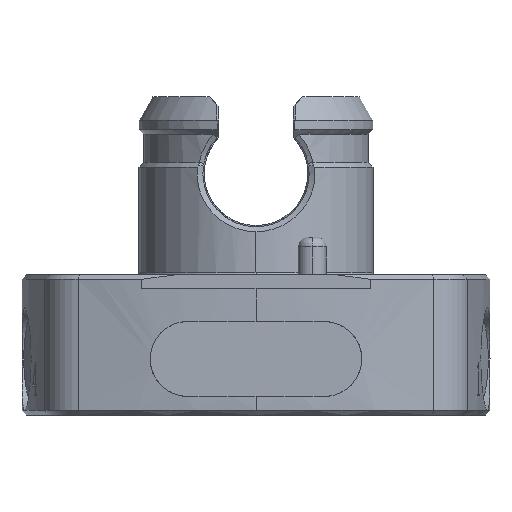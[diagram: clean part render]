
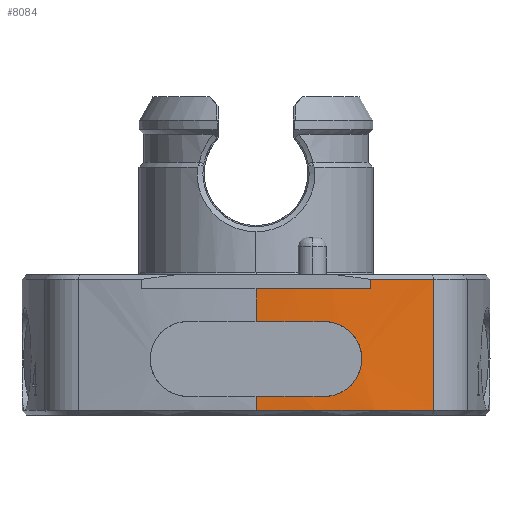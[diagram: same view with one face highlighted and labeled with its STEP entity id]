
A CAD part, left-side view. The second image highlights one B-rep face of the part: STEP entity #8084.
In plain terms, the highlighted cylindrical face has radius 75 mm (diameter 150 mm), a partial arc.
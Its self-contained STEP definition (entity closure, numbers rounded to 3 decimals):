
#193 = CARTESIAN_POINT ( 'NONE',  ( -27.587, -3.012, -62.524 ) ) ;
#391 = VECTOR ( 'NONE', #13564, 1000. ) ;
#449 = VERTEX_POINT ( 'NONE', #1330 ) ;
#567 = DIRECTION ( 'NONE',  ( 0., 0., -1. ) ) ;
#657 = CARTESIAN_POINT ( 'NONE',  ( 47.413, -3.012, -72.024 ) ) ;
#733 = ORIENTED_EDGE ( 'NONE', *, *, #12420, .T. ) ;
#748 = CARTESIAN_POINT ( 'NONE',  ( -27.037, -12.083, -62.927 ) ) ;
#843 = CARTESIAN_POINT ( 'NONE',  ( -27.231, -10.312, -70.524 ) ) ;
#1268 = VECTOR ( 'NONE', #3724, 1000. ) ;
#1330 = CARTESIAN_POINT ( 'NONE',  ( -27.587, -3.012, -70.524 ) ) ;
#1781 = VERTEX_POINT ( 'NONE', #5135 ) ;
#1957 = DIRECTION ( 'NONE',  ( -1., 0., 0. ) ) ;
#2095 = ORIENTED_EDGE ( 'NONE', *, *, #16318, .F. ) ;
#2104 = CARTESIAN_POINT ( 'NONE',  ( -26.925, -12.952, -63.507 ) ) ;
#2213 = CARTESIAN_POINT ( 'NONE',  ( -26.791, -13.907, -68.298 ) ) ;
#2316 = DIRECTION ( 'NONE',  ( -1., 0., 0. ) ) ;
#2729 = AXIS2_PLACEMENT_3D ( 'NONE', #3032, #8074, #8183 ) ;
#2835 = ORIENTED_EDGE ( 'NONE', *, *, #13576, .T. ) ;
#3032 = CARTESIAN_POINT ( 'NONE',  ( 47.413, -3.012, -59.024 ) ) ;
#3264 = CYLINDRICAL_SURFACE ( 'NONE', #16266, 75. ) ;
#3422 = AXIS2_PLACEMENT_3D ( 'NONE', #15081, #7394, #2316 ) ;
#3436 = CARTESIAN_POINT ( 'NONE',  ( -26.734, -14.287, -65.998 ) ) ;
#3495 = CARTESIAN_POINT ( 'NONE',  ( -26.874, -13.326, -69.168 ) ) ;
#3548 = CARTESIAN_POINT ( 'NONE',  ( -27.036, -12.084, -70.119 ) ) ;
#3569 = EDGE_CURVE ( 'NONE', #7685, #10279, #7313, .T. ) ;
#3701 = CIRCLE ( 'NONE', #2729, 75. ) ;
#3724 = DIRECTION ( 'NONE',  ( 0., 0., -1. ) ) ;
#3760 = AXIS2_PLACEMENT_3D ( 'NONE', #5491, #4090, #11818 ) ;
#4090 = DIRECTION ( 'NONE',  ( 0., 0., -1. ) ) ;
#4145 = DIRECTION ( 'NONE',  ( 0., 0., 1. ) ) ;
#4374 = B_SPLINE_CURVE_WITH_KNOTS ( 'NONE', 3,
 ( #12355, #7403, #4730, #8581, #8415, #748, #9712, #11127, #2104, #4836, #11240, #5907, #12295, #11008, #4675, #3436, #6020, #14974, #13596, #16246, #9763, #2213, #7179, #11181, #3495, #12462, #16138, #11070, #3548, #6072, #14862, #4781, #13762, #15030 ),
 .UNSPECIFIED., .F., .F.,
 ( 4, 2, 2, 2, 2, 2, 2, 2, 2, 2, 2, 2, 2, 2, 2, 2, 4 ),
 ( 0., 0.001, 0.002, 0.002, 0.003, 0.004, 0.005, 0.005, 0.006, 0.007, 0.008, 0.009, 0.009, 0.01, 0.011, 0.012, 0.013 ),
 .UNSPECIFIED. ) ;
#4447 = EDGE_CURVE ( 'NONE', #1781, #13980, #3701, .T. ) ;
#4675 = CARTESIAN_POINT ( 'NONE',  ( -26.75, -14.183, -65.48 ) ) ;
#4730 = CARTESIAN_POINT ( 'NONE',  ( -27.178, -10.836, -62.549 ) ) ;
#4781 = CARTESIAN_POINT ( 'NONE',  ( -27.178, -10.84, -70.497 ) ) ;
#4836 = CARTESIAN_POINT ( 'NONE',  ( -26.875, -13.321, -63.875 ) ) ;
#5135 = CARTESIAN_POINT ( 'NONE',  ( -27.587, -3.012, -59.024 ) ) ;
#5491 = CARTESIAN_POINT ( 'NONE',  ( 47.413, -3.012, -62.524 ) ) ;
#5530 = VERTEX_POINT ( 'NONE', #15102 ) ;
#5664 = FACE_OUTER_BOUND ( 'NONE', #13580, .T. ) ;
#5785 = CARTESIAN_POINT ( 'NONE',  ( 47.413, -3.012, -70.524 ) ) ;
#5907 = CARTESIAN_POINT ( 'NONE',  ( -26.81, -13.78, -64.512 ) ) ;
#5911 = EDGE_CURVE ( 'NONE', #11336, #9353, #4374, .T. ) ;
#6020 = CARTESIAN_POINT ( 'NONE',  ( -26.731, -14.312, -66.259 ) ) ;
#6022 = CARTESIAN_POINT ( 'NONE',  ( -25.144, -21.998, -72.024 ) ) ;
#6072 = CARTESIAN_POINT ( 'NONE',  ( -27.094, -11.601, -70.319 ) ) ;
#6550 = EDGE_CURVE ( 'NONE', #449, #7685, #13313, .T. ) ;
#6638 = LINE ( 'NONE', #6934, #8841 ) ;
#6810 = ORIENTED_EDGE ( 'NONE', *, *, #12712, .T. ) ;
#6934 = CARTESIAN_POINT ( 'NONE',  ( -26.587, -15.219, -59.024 ) ) ;
#7028 = CARTESIAN_POINT ( 'NONE',  ( -25.144, -21.998, -57.524 ) ) ;
#7179 = CARTESIAN_POINT ( 'NONE',  ( -26.81, -13.781, -68.532 ) ) ;
#7313 = CIRCLE ( 'NONE', #15599, 75. ) ;
#7394 = DIRECTION ( 'NONE',  ( 0., 0., -1. ) ) ;
#7403 = CARTESIAN_POINT ( 'NONE',  ( -27.205, -10.576, -62.524 ) ) ;
#7589 = ORIENTED_EDGE ( 'NONE', *, *, #5911, .T. ) ;
#7685 = VERTEX_POINT ( 'NONE', #12978 ) ;
#8074 = DIRECTION ( 'NONE',  ( 0., 0., 1. ) ) ;
#8084 = ADVANCED_FACE ( 'NONE', ( #5664 ), #3264, .T. ) ;
#8183 = DIRECTION ( 'NONE',  ( 1., 0., 0. ) ) ;
#8380 = CARTESIAN_POINT ( 'NONE',  ( -27.587, -3.012, -57.524 ) ) ;
#8415 = CARTESIAN_POINT ( 'NONE',  ( -27.094, -11.599, -62.727 ) ) ;
#8581 = CARTESIAN_POINT ( 'NONE',  ( -27.123, -11.346, -62.651 ) ) ;
#8841 = VECTOR ( 'NONE', #4145, 1000. ) ;
#9237 = ORIENTED_EDGE ( 'NONE', *, *, #11147, .F. ) ;
#9353 = VERTEX_POINT ( 'NONE', #843 ) ;
#9617 = DIRECTION ( 'NONE',  ( 0., 0., 1. ) ) ;
#9627 = CIRCLE ( 'NONE', #3422, 75. ) ;
#9712 = CARTESIAN_POINT ( 'NONE',  ( -27.008, -12.312, -63.049 ) ) ;
#9763 = CARTESIAN_POINT ( 'NONE',  ( -26.761, -14.108, -67.813 ) ) ;
#9775 = EDGE_CURVE ( 'NONE', #5530, #10279, #14456, .T. ) ;
#9867 = ORIENTED_EDGE ( 'NONE', *, *, #9775, .F. ) ;
#9950 = CARTESIAN_POINT ( 'NONE',  ( -27.587, -3.012, -57.524 ) ) ;
#10279 = VERTEX_POINT ( 'NONE', #6022 ) ;
#10768 = DIRECTION ( 'NONE',  ( -1., 0., 0. ) ) ;
#10845 = CIRCLE ( 'NONE', #14800, 75. ) ;
#11008 = CARTESIAN_POINT ( 'NONE',  ( -26.762, -14.106, -65.228 ) ) ;
#11009 = CARTESIAN_POINT ( 'NONE',  ( 47.413, -3.012, -57.524 ) ) ;
#11070 = CARTESIAN_POINT ( 'NONE',  ( -27.008, -12.317, -69.995 ) ) ;
#11127 = CARTESIAN_POINT ( 'NONE',  ( -26.953, -12.746, -63.338 ) ) ;
#11147 = EDGE_CURVE ( 'NONE', #13980, #12516, #6638, .T. ) ;
#11181 = CARTESIAN_POINT ( 'NONE',  ( -26.851, -13.491, -68.966 ) ) ;
#11240 = CARTESIAN_POINT ( 'NONE',  ( -26.852, -13.487, -64.076 ) ) ;
#11336 = VERTEX_POINT ( 'NONE', #13690 ) ;
#11818 = DIRECTION ( 'NONE',  ( -1., 0., 0. ) ) ;
#11939 = CARTESIAN_POINT ( 'NONE',  ( -26.587, -15.219, -58.024 ) ) ;
#12295 = CARTESIAN_POINT ( 'NONE',  ( -26.792, -13.905, -64.746 ) ) ;
#12355 = CARTESIAN_POINT ( 'NONE',  ( -27.231, -10.312, -62.524 ) ) ;
#12420 = EDGE_CURVE ( 'NONE', #9353, #449, #10845, .T. ) ;
#12462 = CARTESIAN_POINT ( 'NONE',  ( -26.925, -12.952, -69.54 ) ) ;
#12516 = VERTEX_POINT ( 'NONE', #11939 ) ;
#12712 = EDGE_CURVE ( 'NONE', #5530, #12516, #9627, .T. ) ;
#12839 = LINE ( 'NONE', #8380, #391 ) ;
#12978 = CARTESIAN_POINT ( 'NONE',  ( -27.587, -3.012, -72.024 ) ) ;
#13313 = LINE ( 'NONE', #9950, #1268 ) ;
#13383 = DIRECTION ( 'NONE',  ( 0., 0., -1. ) ) ;
#13564 = DIRECTION ( 'NONE',  ( 0., 0., -1. ) ) ;
#13576 = EDGE_CURVE ( 'NONE', #1781, #13932, #12839, .T. ) ;
#13580 = EDGE_LOOP ( 'NONE', ( #15796, #2835, #2095, #7589, #733, #14756, #14698, #9867, #6810, #9237 ) ) ;
#13596 = CARTESIAN_POINT ( 'NONE',  ( -26.734, -14.287, -67.048 ) ) ;
#13690 = CARTESIAN_POINT ( 'NONE',  ( -27.231, -10.312, -62.524 ) ) ;
#13762 = CARTESIAN_POINT ( 'NONE',  ( -27.205, -10.576, -70.524 ) ) ;
#13932 = VERTEX_POINT ( 'NONE', #193 ) ;
#13980 = VERTEX_POINT ( 'NONE', #15642 ) ;
#14456 = LINE ( 'NONE', #7028, #15054 ) ;
#14698 = ORIENTED_EDGE ( 'NONE', *, *, #3569, .T. ) ;
#14756 = ORIENTED_EDGE ( 'NONE', *, *, #6550, .T. ) ;
#14800 = AXIS2_PLACEMENT_3D ( 'NONE', #5785, #567, #10768 ) ;
#14862 = CARTESIAN_POINT ( 'NONE',  ( -27.122, -11.352, -70.395 ) ) ;
#14974 = CARTESIAN_POINT ( 'NONE',  ( -26.731, -14.313, -66.782 ) ) ;
#15030 = CARTESIAN_POINT ( 'NONE',  ( -27.231, -10.312, -70.524 ) ) ;
#15054 = VECTOR ( 'NONE', #13383, 1000. ) ;
#15081 = CARTESIAN_POINT ( 'NONE',  ( 47.413, -3.012, -58.024 ) ) ;
#15102 = CARTESIAN_POINT ( 'NONE',  ( -25.144, -21.998, -58.024 ) ) ;
#15599 = AXIS2_PLACEMENT_3D ( 'NONE', #657, #9617, #1957 ) ;
#15642 = CARTESIAN_POINT ( 'NONE',  ( -26.587, -15.219, -59.024 ) ) ;
#15788 = CIRCLE ( 'NONE', #3760, 75. ) ;
#15796 = ORIENTED_EDGE ( 'NONE', *, *, #4447, .F. ) ;
#16082 = DIRECTION ( 'NONE',  ( -1., 0., 0. ) ) ;
#16138 = CARTESIAN_POINT ( 'NONE',  ( -26.952, -12.75, -69.706 ) ) ;
#16246 = CARTESIAN_POINT ( 'NONE',  ( -26.75, -14.184, -67.563 ) ) ;
#16248 = DIRECTION ( 'NONE',  ( 0., 0., -1. ) ) ;
#16266 = AXIS2_PLACEMENT_3D ( 'NONE', #11009, #16248, #16082 ) ;
#16318 = EDGE_CURVE ( 'NONE', #11336, #13932, #15788, .T. ) ;
